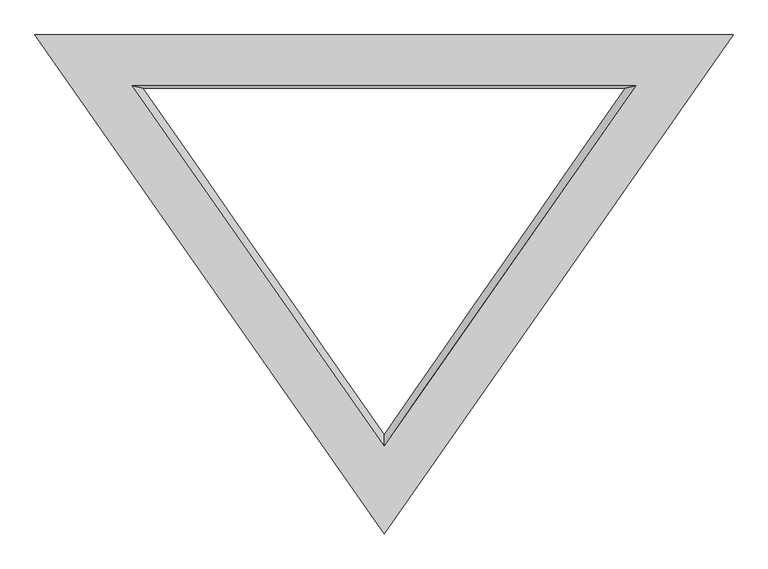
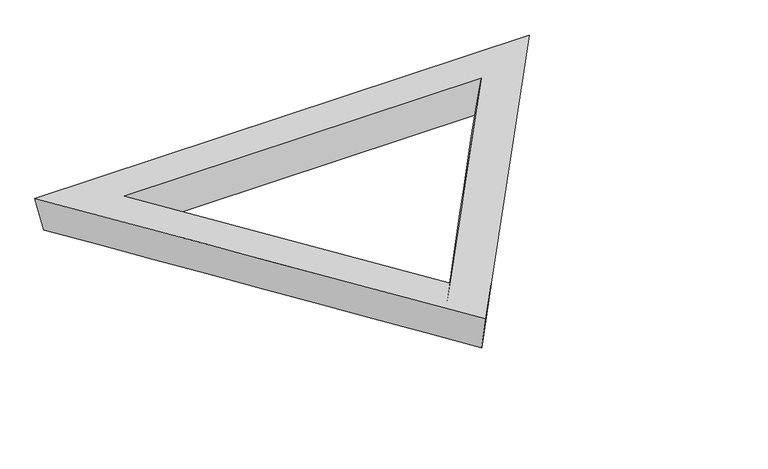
"""IFC4 building model written with IfcOpenShell, lengths in millimetres: plate geometry."""

from ifc_helpers import new_model, si_unit, frame, origin, place, context, project, spatial, source, transform, mapped, element, save
from ifc_brep_helpers import plane_surface, spline_surface, advanced_brep


def plate_b7ef1210(model_context):
    return source(origin(), model_context, "Body", "AdvancedBrep", [
        advanced_brep(
        [(5128.6105344, 5526.3622956, 0.0), (5085.310923, 5537.3230827, 198.0486234), (6096.0, 4092.8051803, 198.5727845), (6096.0, 4136.5606242, 0.0), (7106.689077, 5537.3230827, 198.0486234), (7063.3894656, 5526.3622956, 0.0), (6096.0, 3780.8754087, 0.0), (7452.4087631, 5729.5622956, 0.0), (7496.8614846, 5740.5230694, 197.9748898), (6096.0, 3738.3549057, 198.7014012), (4739.5912369, 5729.5622956, 0.0), (4695.1385154, 5740.5230694, 197.9748898)],
        [
            (0, 1),
            (1, 2),
            (2, 3),
            (3, 0),
            (2, 4),
            (4, 5),
            (5, 3),
            (0, 5),
            (4, 1),
            (6, 7),
            (7, 8),
            (8, 9),
            (9, 6),
            (7, 10),
            (10, 11),
            (11, 8),
            (9, 11),
            (10, 6),
        ],
        [
            spline_surface(1, 1, [[(5128.6105344, 5526.3622956, 0.0), (6096.0, 4136.5606242, 0.0)], [(5085.310923, 5537.3230827, 198.0486234), (6096.0, 4092.8051803, 198.5727845)]], [2, 2], [2, 2], [0.0, 1.0], [0.0, 1.0]),
            spline_surface(1, 1, [[(6096.0, 4136.5606242, 0.0), (7063.3894656, 5526.3622956, 0.0)], [(6096.0, 4092.8051803, 198.5727845), (7106.689077, 5537.3230827, 198.0486234)]], [2, 2], [2, 2], [0.0, 1.0], [0.0, 1.0]),
            plane_surface(frame((6096.0, 5526.3622956, 0.0), z_axis=(0.0, -0.9984720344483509, 0.05525935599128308), x_axis=(-1.0, 0.0, 0.0))),
            spline_surface(1, 1, [[(6096.0, 3780.8754087, 0.0), (6096.0, 3738.3549057, 198.7014012)], [(7452.4087631, 5729.5622956, 0.0), (7496.8614846, 5740.5230694, 197.9748898)]], [2, 2], [2, 2], [0.0, 1.0], [0.0, 1.0]),
            plane_surface(frame((6096.0, 5729.5622956, 0.0), z_axis=(0.0, 0.9984709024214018, -0.0552798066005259), x_axis=(-1.0, 0.0, 0.0))),
            spline_surface(1, 1, [[(4739.5912369, 5729.5622956, 0.0), (4695.1385154, 5740.5230694, 197.9748898)], [(6096.0, 3780.8754087, 0.0), (6096.0, 3738.3549057, 198.7014012)]], [2, 2], [2, 2], [0.0, 1.0], [0.0, 1.0]),
            plane_surface(frame((6096.0, 5073.1336815, 198.2170602), z_axis=(0.0, 0.00036286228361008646, 0.9999999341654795), x_axis=(0.5732820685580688, -0.8193580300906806, 0.0002973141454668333))),
            plane_surface(frame((6096.0, 5080.0, 0.0), z_axis=(0.0, 0.0, -1.0), x_axis=(-0.5712916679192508, 0.8207471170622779, 0.0))),
        ],
        [
            (0, [[1, 2, 3, 4]]),
            (1, [[-3, 5, 6, 7]]),
            (2, [[-1, 8, -6, 9]]),
            (3, [[10, 11, 12, 13]]),
            (4, [[-11, 14, 15, 16]]),
            (5, [[-13, 17, -15, 18]]),
            (6, [[-12, -16, -17], [-2, -9, -5]]),
            (7, [[-10, -18, -14], [-4, -7, -8]]),
        ],
    ),
    ])


if __name__ == "__main__":
    model = new_model("IFC4")
    model_context = context("Model", 3, world=origin())
    ifc_project = project(units=[si_unit("LENGTHUNIT", "METRE", prefix="MILLI")], contexts=[model_context])
    site = spatial("IfcSite", under=ifc_project)
    building = spatial("IfcBuilding", under=site)
    placement = place(None, origin())
    plate_shape = plate_b7ef1210(model_context)
    element("IfcPlate", 1, ObjectType="tn_cpanel_patbase_triangle_flat_seamless_frame_02_cylinder : tn_cpanel_pattern_mullion_t8\"xh8\"", at=placement, inside=building, context=model_context, shape_type="MappedRepresentation", body=[
        mapped(plate_shape, transform((0.0, 0.0, 0.0), x_axis=(1.0, 0.0, 0.0), y_axis=(0.0, 1.0, 0.0), z_axis=(0.0, 0.0, 1.0))),
    ])
    save(model, "model.ifc")
